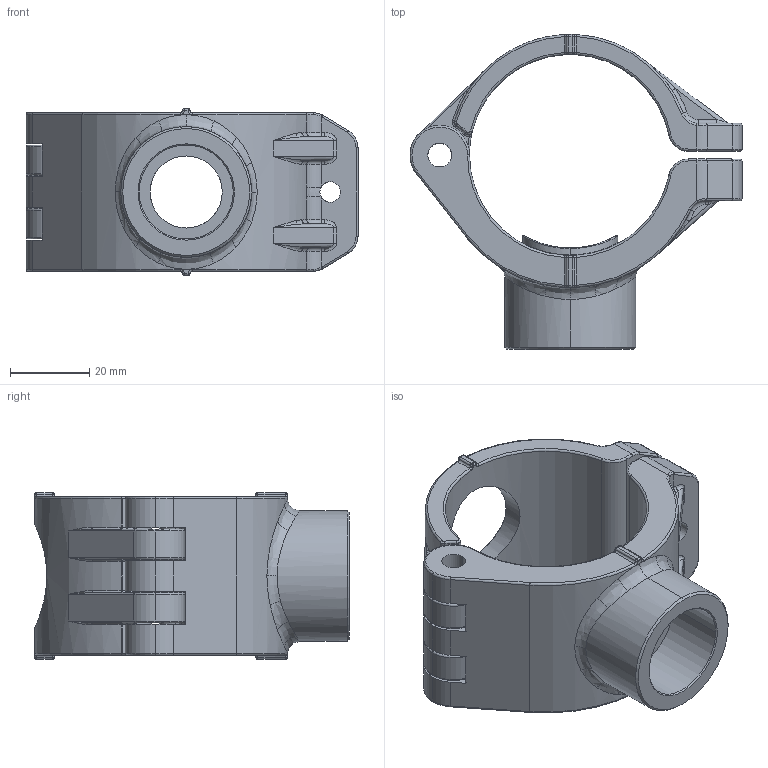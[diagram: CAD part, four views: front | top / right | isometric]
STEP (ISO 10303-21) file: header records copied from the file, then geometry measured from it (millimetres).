
FILE_DESCRIPTION(/* description */ (''),/* implementation_level */ '2;1');
FILE_NAME(/* name */ '5199_stp.stp',/* time_stamp */ '2025-06-20T11:25:05+08:00',/* author */ (''),/* organization */ (''),/* preprocessor_version */ 'ST-DEVELOPER v14',/* originating_system */ 'SIEMENS PLM Software NX 8.0',/* authorisation */ '');
FILE_SCHEMA (('AP203_CONFIGURATION_CONTROLLED_3D_DESIGN_OF_MECHANICAL_PARTS_AND_ASSEMBLIES_MIM_LF { 1 0 10303 403 2 1 2}'));
Length unit declared in the file: millimetre
Products named in the file (1): Admi144825784xc3
Bounding box: 83.73 x 79.4 x 42 mm (x, y, z)
Volume: 59891.8 mm3; surface area: 25171.2 mm2
Topology: 2 solids, 7 shells, 405 faces, 1226 edges, 781 vertices
Faces by surface type: cylinder 131, torus 102, bspline 85, plane 47, sphere 30, cone 10
Entity records: 16078 total; most frequent: CARTESIAN_POINT 6090, ORIENTED_EDGE 2336, DIRECTION 1854, EDGE_CURVE 1168, AXIS2_PLACEMENT_3D 820, VERTEX_POINT 781, CIRCLE 499, EDGE_LOOP 427
